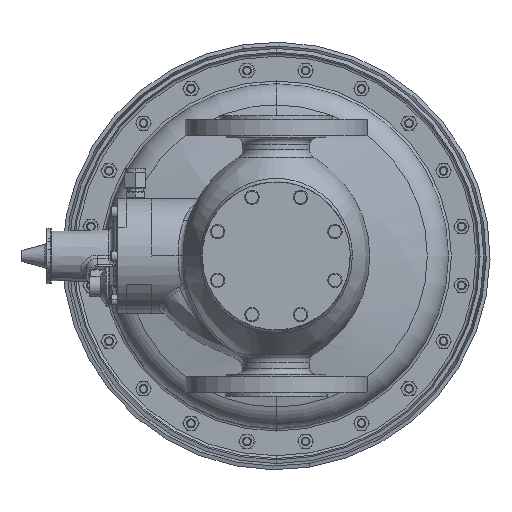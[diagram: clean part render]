
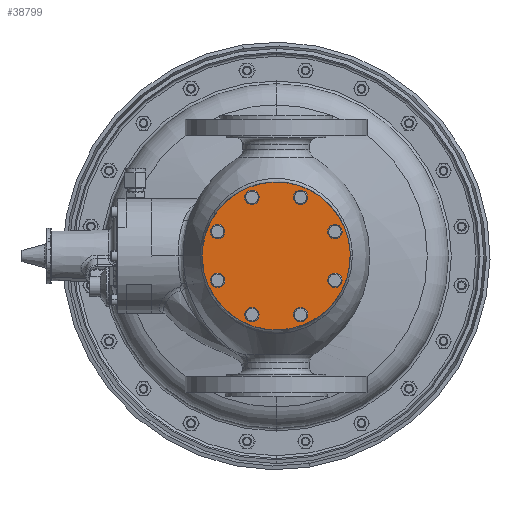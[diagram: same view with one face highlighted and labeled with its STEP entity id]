
A CAD part, front view. The second image highlights one B-rep face of the part: STEP entity #38799.
In plain terms, the highlighted planar face has unit normal (0, -1, 0).
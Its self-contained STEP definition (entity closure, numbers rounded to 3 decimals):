
#16=CARTESIAN_POINT('',(0.,-101.,0.));
#17=DIRECTION('',(0.,-1.,0.));
#18=DIRECTION('',(0.924,0.,0.383));
#19=AXIS2_PLACEMENT_3D('',#16,#17,#18);
#21=CARTESIAN_POINT('',(0.,-101.,0.));
#22=DIRECTION('',(0.,-1.,0.));
#23=DIRECTION('',(-0.924,0.,-0.383));
#24=AXIS2_PLACEMENT_3D('',#21,#22,#23);
#26=CARTESIAN_POINT('',(-53.123,-101.,22.004));
#27=DIRECTION('',(0.,-1.,0.));
#28=DIRECTION('',(0.,0.,1.));
#29=AXIS2_PLACEMENT_3D('',#26,#27,#28);
#31=CARTESIAN_POINT('',(-53.123,-101.,22.004));
#32=DIRECTION('',(0.,-1.,0.));
#33=DIRECTION('',(0.,0.,-1.));
#34=AXIS2_PLACEMENT_3D('',#31,#32,#33);
#36=CARTESIAN_POINT('',(-53.123,-101.,-22.004));
#37=DIRECTION('',(0.,-1.,0.));
#38=DIRECTION('',(-0.707,0.,0.707));
#39=AXIS2_PLACEMENT_3D('',#36,#37,#38);
#41=CARTESIAN_POINT('',(-53.123,-101.,-22.004));
#42=DIRECTION('',(0.,-1.,0.));
#43=DIRECTION('',(0.707,0.,-0.707));
#44=AXIS2_PLACEMENT_3D('',#41,#42,#43);
#46=CARTESIAN_POINT('',(-22.004,-101.,-53.123));
#47=DIRECTION('',(0.,-1.,0.));
#48=DIRECTION('',(-1.,0.,0.));
#49=AXIS2_PLACEMENT_3D('',#46,#47,#48);
#51=CARTESIAN_POINT('',(-22.004,-101.,-53.123));
#52=DIRECTION('',(0.,-1.,0.));
#53=DIRECTION('',(1.,0.,0.));
#54=AXIS2_PLACEMENT_3D('',#51,#52,#53);
#56=CARTESIAN_POINT('',(22.004,-101.,-53.123));
#57=DIRECTION('',(0.,-1.,0.));
#58=DIRECTION('',(-0.707,0.,-0.707));
#59=AXIS2_PLACEMENT_3D('',#56,#57,#58);
#61=CARTESIAN_POINT('',(22.004,-101.,-53.123));
#62=DIRECTION('',(0.,-1.,0.));
#63=DIRECTION('',(0.707,0.,0.707));
#64=AXIS2_PLACEMENT_3D('',#61,#62,#63);
#66=CARTESIAN_POINT('',(53.123,-101.,-22.004));
#67=DIRECTION('',(0.,-1.,0.));
#68=DIRECTION('',(0.,0.,-1.));
#69=AXIS2_PLACEMENT_3D('',#66,#67,#68);
#71=CARTESIAN_POINT('',(53.123,-101.,-22.004));
#72=DIRECTION('',(0.,-1.,0.));
#73=DIRECTION('',(0.,0.,1.));
#74=AXIS2_PLACEMENT_3D('',#71,#72,#73);
#76=CARTESIAN_POINT('',(53.123,-101.,22.004));
#77=DIRECTION('',(0.,-1.,0.));
#78=DIRECTION('',(0.707,0.,-0.707));
#79=AXIS2_PLACEMENT_3D('',#76,#77,#78);
#81=CARTESIAN_POINT('',(53.123,-101.,22.004));
#82=DIRECTION('',(0.,-1.,0.));
#83=DIRECTION('',(-0.707,0.,0.707));
#84=AXIS2_PLACEMENT_3D('',#81,#82,#83);
#86=CARTESIAN_POINT('',(22.004,-101.,53.123));
#87=DIRECTION('',(0.,-1.,0.));
#88=DIRECTION('',(1.,0.,0.));
#89=AXIS2_PLACEMENT_3D('',#86,#87,#88);
#91=CARTESIAN_POINT('',(22.004,-101.,53.123));
#92=DIRECTION('',(0.,-1.,0.));
#93=DIRECTION('',(-1.,0.,0.));
#94=AXIS2_PLACEMENT_3D('',#91,#92,#93);
#96=CARTESIAN_POINT('',(-22.004,-101.,53.123));
#97=DIRECTION('',(0.,-1.,0.));
#98=DIRECTION('',(0.707,0.,0.707));
#99=AXIS2_PLACEMENT_3D('',#96,#97,#98);
#101=CARTESIAN_POINT('',(-22.004,-101.,53.123));
#102=DIRECTION('',(0.,-1.,0.));
#103=DIRECTION('',(-0.707,0.,-0.707));
#104=AXIS2_PLACEMENT_3D('',#101,#102,#103);
#35814=CARTESIAN_POINT('',(-61.9,-101.,-25.64));
#35815=CARTESIAN_POINT('',(61.9,-101.,25.64));
#35816=VERTEX_POINT('',#35814);
#35817=VERTEX_POINT('',#35815);
#36094=CARTESIAN_POINT('',(-53.123,-101.,28.304));
#36095=CARTESIAN_POINT('',(-53.123,-101.,15.704));
#36096=VERTEX_POINT('',#36094);
#36097=VERTEX_POINT('',#36095);
#36110=CARTESIAN_POINT('',(-57.578,-101.,-17.55));
#36111=CARTESIAN_POINT('',(-48.668,-101.,-26.459));
#36112=VERTEX_POINT('',#36110);
#36113=VERTEX_POINT('',#36111);
#36126=CARTESIAN_POINT('',(-28.304,-101.,-53.123));
#36127=CARTESIAN_POINT('',(-15.704,-101.,-53.123));
#36128=VERTEX_POINT('',#36126);
#36129=VERTEX_POINT('',#36127);
#36142=CARTESIAN_POINT('',(17.55,-101.,-57.578));
#36143=CARTESIAN_POINT('',(26.459,-101.,-48.668));
#36144=VERTEX_POINT('',#36142);
#36145=VERTEX_POINT('',#36143);
#36158=CARTESIAN_POINT('',(53.123,-101.,-28.304));
#36159=CARTESIAN_POINT('',(53.123,-101.,-15.704));
#36160=VERTEX_POINT('',#36158);
#36161=VERTEX_POINT('',#36159);
#36174=CARTESIAN_POINT('',(57.578,-101.,17.55));
#36175=CARTESIAN_POINT('',(48.668,-101.,26.459));
#36176=VERTEX_POINT('',#36174);
#36177=VERTEX_POINT('',#36175);
#36190=CARTESIAN_POINT('',(28.304,-101.,53.123));
#36191=CARTESIAN_POINT('',(15.704,-101.,53.123));
#36192=VERTEX_POINT('',#36190);
#36193=VERTEX_POINT('',#36191);
#36206=CARTESIAN_POINT('',(-17.55,-101.,57.578));
#36207=CARTESIAN_POINT('',(-26.459,-101.,48.668));
#36208=VERTEX_POINT('',#36206);
#36209=VERTEX_POINT('',#36207);
#38741=CARTESIAN_POINT('',(0.,-101.,0.));
#38742=DIRECTION('',(0.,1.,0.));
#38743=DIRECTION('',(-0.924,0.,-0.383));
#38744=AXIS2_PLACEMENT_3D('',#38741,#38742,#38743);
#38745=PLANE('',#38744);
#38747=ORIENTED_EDGE('',*,*,#38746,.F.);
#38749=ORIENTED_EDGE('',*,*,#38748,.F.);
#38750=EDGE_LOOP('',(#38747,#38749));
#38751=FACE_OUTER_BOUND('',#38750,.F.);
#38753=ORIENTED_EDGE('',*,*,#38752,.T.);
#38755=ORIENTED_EDGE('',*,*,#38754,.T.);
#38756=EDGE_LOOP('',(#38753,#38755));
#38757=FACE_BOUND('',#38756,.F.);
#38759=ORIENTED_EDGE('',*,*,#38758,.T.);
#38761=ORIENTED_EDGE('',*,*,#38760,.T.);
#38762=EDGE_LOOP('',(#38759,#38761));
#38763=FACE_BOUND('',#38762,.F.);
#38765=ORIENTED_EDGE('',*,*,#38764,.T.);
#38767=ORIENTED_EDGE('',*,*,#38766,.T.);
#38768=EDGE_LOOP('',(#38765,#38767));
#38769=FACE_BOUND('',#38768,.F.);
#38771=ORIENTED_EDGE('',*,*,#38770,.T.);
#38773=ORIENTED_EDGE('',*,*,#38772,.T.);
#38774=EDGE_LOOP('',(#38771,#38773));
#38775=FACE_BOUND('',#38774,.F.);
#38777=ORIENTED_EDGE('',*,*,#38776,.T.);
#38779=ORIENTED_EDGE('',*,*,#38778,.T.);
#38780=EDGE_LOOP('',(#38777,#38779));
#38781=FACE_BOUND('',#38780,.F.);
#38783=ORIENTED_EDGE('',*,*,#38782,.T.);
#38785=ORIENTED_EDGE('',*,*,#38784,.T.);
#38786=EDGE_LOOP('',(#38783,#38785));
#38787=FACE_BOUND('',#38786,.F.);
#38789=ORIENTED_EDGE('',*,*,#38788,.T.);
#38790=ORIENTED_EDGE('',*,*,#38730,.T.);
#38791=EDGE_LOOP('',(#38789,#38790));
#38792=FACE_BOUND('',#38791,.F.);
#38794=ORIENTED_EDGE('',*,*,#38793,.T.);
#38796=ORIENTED_EDGE('',*,*,#38795,.T.);
#38797=EDGE_LOOP('',(#38794,#38796));
#38798=FACE_BOUND('',#38797,.F.);
#38799=ADVANCED_FACE('',(#38751,#38757,#38763,#38769,#38775,#38781,#38787,
#38792,#38798),#38745,.F.);
#20=CIRCLE('',#19,67.);
#25=CIRCLE('',#24,67.);
#30=CIRCLE('',#29,6.3);
#35=CIRCLE('',#34,6.3);
#40=CIRCLE('',#39,6.3);
#45=CIRCLE('',#44,6.3);
#50=CIRCLE('',#49,6.3);
#55=CIRCLE('',#54,6.3);
#60=CIRCLE('',#59,6.3);
#65=CIRCLE('',#64,6.3);
#70=CIRCLE('',#69,6.3);
#75=CIRCLE('',#74,6.3);
#80=CIRCLE('',#79,6.3);
#85=CIRCLE('',#84,6.3);
#90=CIRCLE('',#89,6.3);
#95=CIRCLE('',#94,6.3);
#100=CIRCLE('',#99,6.3);
#105=CIRCLE('',#104,6.3);
#38730=EDGE_CURVE('',#36193,#36192,#95,.T.);
#38746=EDGE_CURVE('',#35817,#35816,#20,.T.);
#38748=EDGE_CURVE('',#35816,#35817,#25,.T.);
#38752=EDGE_CURVE('',#36096,#36097,#30,.T.);
#38754=EDGE_CURVE('',#36097,#36096,#35,.T.);
#38758=EDGE_CURVE('',#36112,#36113,#40,.T.);
#38760=EDGE_CURVE('',#36113,#36112,#45,.T.);
#38764=EDGE_CURVE('',#36128,#36129,#50,.T.);
#38766=EDGE_CURVE('',#36129,#36128,#55,.T.);
#38770=EDGE_CURVE('',#36144,#36145,#60,.T.);
#38772=EDGE_CURVE('',#36145,#36144,#65,.T.);
#38776=EDGE_CURVE('',#36160,#36161,#70,.T.);
#38778=EDGE_CURVE('',#36161,#36160,#75,.T.);
#38782=EDGE_CURVE('',#36176,#36177,#80,.T.);
#38784=EDGE_CURVE('',#36177,#36176,#85,.T.);
#38788=EDGE_CURVE('',#36192,#36193,#90,.T.);
#38793=EDGE_CURVE('',#36208,#36209,#100,.T.);
#38795=EDGE_CURVE('',#36209,#36208,#105,.T.);
